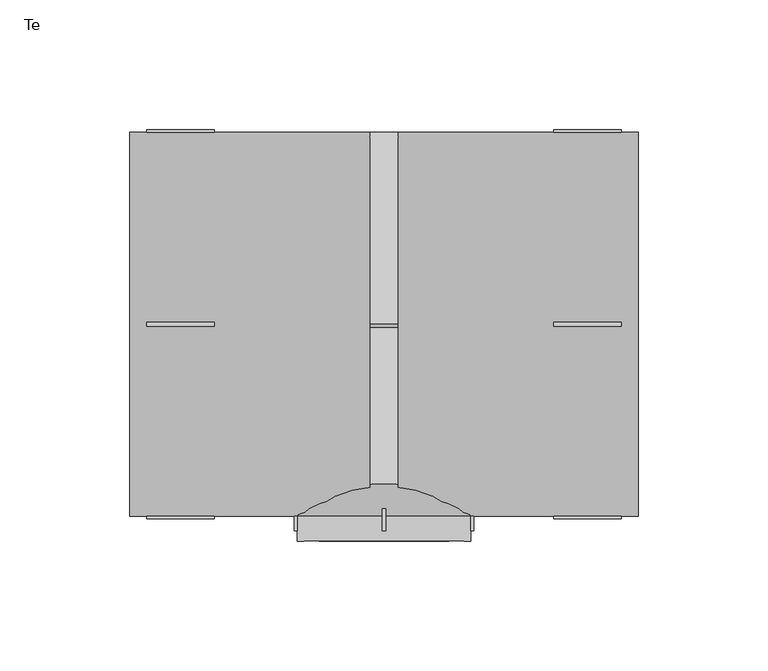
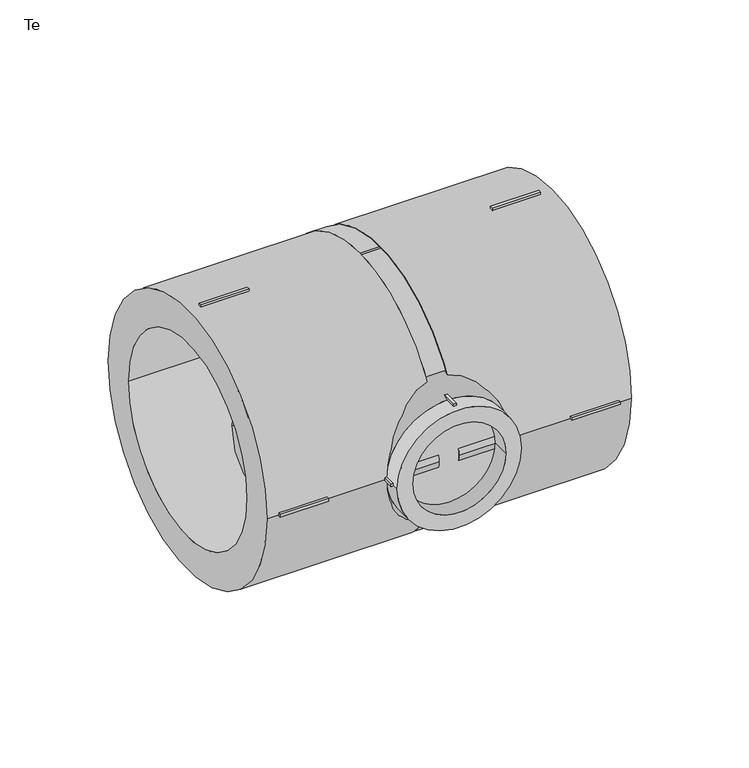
"""IFC4 building model written with IfcOpenShell, lengths in millimetres: pipe fitting geometry, EGB_VASEN_ PPR_Te WXR300_Te reducida WXR310 : Te."""

from ifc_helpers import new_model, si_unit, point, frame, origin, origin_2d, place, context, project, spatial, polyline, circle_curve, trimmed, segment, composite_curve, outline, extrude, source, transform, mapped, element, save
from ifc_brep_helpers import plane_surface, revolved_surface, advanced_brep


def te_c3781a79(model_context):
    return source(origin(), model_context, "Body", "SolidModel", [
        extrude(outline(polyline([(-0.75, -63.5), (0.75, -63.5), (0.75, -79.5), (-0.75, -79.5), (-0.75, -63.5)])), frame((0.0, 0.0, 32.5), z_axis=(0.0, 0.0, 1.0), x_axis=(1.0, 0.0, 0.0)), (0.0, 0.0, 1.0), 2.0),
        extrude(outline(polyline([(-0.75, -63.5), (0.75, -63.5), (0.75, -79.5), (-0.75, -79.5), (-0.75, -63.5)])), frame((0.0, 0.0, -34.5), z_axis=(0.0, 0.0, 1.0), x_axis=(1.0, 0.0, 0.0)), (0.0, 0.0, 1.0), 2.0),
        extrude(outline(polyline([(32.5, -63.5), (34.5, -63.5), (34.5, -79.5), (32.5, -79.5), (32.5, -63.5)])), frame((0.0, 0.0, -0.75), z_axis=(0.0, 0.0, 1.0), x_axis=(1.0, 0.0, 0.0)), (0.0, 0.0, 1.0), 1.5),
        extrude(outline(polyline([(-34.5, -63.5), (-32.5, -63.5), (-32.5, -79.5), (-34.5, -79.5), (-34.5, -63.5)])), frame((0.0, 0.0, -0.75), z_axis=(0.0, 0.0, 1.0), x_axis=(1.0, 0.0, 0.0)), (0.0, 0.0, 1.0), 1.5),
        extrude(outline(polyline([(65.5, -0.75), (65.5, 0.75), (91.5, 0.75), (91.5, -0.75), (65.5, -0.75)])), frame((0.0, 0.0, 73.0), z_axis=(0.0, 0.0, 1.0), x_axis=(1.0, 0.0, 0.0)), (0.0, 0.0, 1.0), 2.0),
        extrude(outline(polyline([(65.5, -0.75), (65.5, 0.75), (91.5, 0.75), (91.5, -0.75), (65.5, -0.75)])), frame((0.0, 0.0, -75.0), z_axis=(0.0, 0.0, 1.0), x_axis=(1.0, 0.0, 0.0)), (0.0, 0.0, 1.0), 2.0),
        extrude(outline(polyline([(65.5, 73.0), (65.5, 75.0), (91.5, 75.0), (91.5, 73.0), (65.5, 73.0)])), frame((0.0, 0.0, -0.75), z_axis=(0.0, 0.0, 1.0), x_axis=(1.0, 0.0, 0.0)), (0.0, 0.0, 1.0), 1.5),
        extrude(outline(polyline([(65.5, -75.0), (65.5, -73.0), (91.5, -73.0), (91.5, -75.0), (65.5, -75.0)])), frame((0.0, 0.0, -0.75), z_axis=(0.0, 0.0, 1.0), x_axis=(1.0, 0.0, 0.0)), (0.0, 0.0, 1.0), 1.5),
        extrude(outline(polyline([(-65.5, 0.75), (-65.5, -0.75), (-91.5, -0.75), (-91.5, 0.75), (-65.5, 0.75)])), frame((0.0, 0.0, 73.0), z_axis=(0.0, 0.0, 1.0), x_axis=(1.0, 0.0, 0.0)), (0.0, 0.0, 1.0), 2.0),
        extrude(outline(polyline([(-65.5, 0.75), (-65.5, -0.75), (-91.5, -0.75), (-91.5, 0.75), (-65.5, 0.75)])), frame((0.0, 0.0, -75.0), z_axis=(0.0, 0.0, 1.0), x_axis=(1.0, 0.0, 0.0)), (0.0, 0.0, 1.0), 2.0),
        extrude(outline(polyline([(-65.5, 75.0), (-65.5, 73.0), (-91.5, 73.0), (-91.5, 75.0), (-65.5, 75.0)])), frame((0.0, 0.0, -0.75), z_axis=(0.0, 0.0, 1.0), x_axis=(1.0, 0.0, 0.0)), (0.0, 0.0, 1.0), 1.5),
        extrude(outline(polyline([(-65.5, -73.0), (-65.5, -75.0), (-91.5, -75.0), (-91.5, -73.0), (-65.5, -73.0)])), frame((0.0, 0.0, -0.75), z_axis=(0.0, 0.0, 1.0), x_axis=(1.0, 0.0, 0.0)), (0.0, 0.0, 1.0), 1.5),
        extrude(outline(composite_curve([segment(trimmed(circle_curve(origin_2d(), 33.5), [point((0.0, 33.5))], [point((0.0, -33.5))], False, "CARTESIAN"), True, "CONTINUOUS"), segment(trimmed(circle_curve(origin_2d(), 33.5), [point((0.0, -33.5))], [point((0.0, 33.5))], False, "CARTESIAN"), True, "CONTINUOUS")], self_intersect=False), holes=[composite_curve([segment(trimmed(circle_curve(origin_2d(), 25.0), [point((0.0, 25.0))], [point((0.0, -25.0))], True, "CARTESIAN"), True, "CONTINUOUS"), segment(trimmed(circle_curve(origin_2d(), 25.0), [point((0.0, -25.0))], [point((0.0, 25.0))], True, "CARTESIAN"), True, "CONTINUOUS")], self_intersect=False)]), frame((0.0, -83.5, 0.0), z_axis=(0.0, 1.0, 0.0), x_axis=(0.0, 0.0, 1.0)), (0.0, 0.0, 1.0), 9.5),
        extrude(outline(composite_curve([segment(trimmed(circle_curve(origin_2d(), 74.0), [point((-74.0, 0.0))], [point((74.0, 0.0))], False, "CARTESIAN"), True, "CONTINUOUS"), segment(trimmed(circle_curve(origin_2d(), 74.0), [point((74.0, 0.0))], [point((-74.0, 0.0))], False, "CARTESIAN"), True, "CONTINUOUS")], self_intersect=False), holes=[composite_curve([segment(trimmed(circle_curve(origin_2d(), 55.0), [point((-55.0, 0.0))], [point((55.0, 0.0))], True, "CARTESIAN"), True, "CONTINUOUS"), segment(trimmed(circle_curve(origin_2d(), 55.0), [point((55.0, 0.0))], [point((-55.0, 0.0))], True, "CARTESIAN"), True, "CONTINUOUS")], self_intersect=False)]), frame((5.44, 0.0, 0.0), z_axis=(1.0, 0.0, 0.0), x_axis=(0.0, 1.0, 0.0)), (0.0, 0.0, 1.0), 92.56),
        extrude(outline(composite_curve([segment(trimmed(circle_curve(origin_2d(), 74.0), [point((-74.0, 0.0))], [point((74.0, 0.0))], False, "CARTESIAN"), True, "CONTINUOUS"), segment(trimmed(circle_curve(origin_2d(), 74.0), [point((74.0, 0.0))], [point((-74.0, 0.0))], False, "CARTESIAN"), True, "CONTINUOUS")], self_intersect=False), holes=[composite_curve([segment(trimmed(circle_curve(origin_2d(), 55.0), [point((-55.0, 0.0))], [point((55.0, 0.0))], True, "CARTESIAN"), True, "CONTINUOUS"), segment(trimmed(circle_curve(origin_2d(), 55.0), [point((55.0, 0.0))], [point((-55.0, 0.0))], True, "CARTESIAN"), True, "CONTINUOUS")], self_intersect=False)]), frame((-98.0, 0.0, 0.0), z_axis=(1.0, 0.0, 0.0), x_axis=(0.0, 1.0, 0.0)), (0.0, 0.0, 1.0), 92.56),
        advanced_brep(
        [(74.0, 0.0, 0.0), (-74.0, 0.0, 0.0), (33.5, -74.0, 0.0), (-33.5, -74.0, 0.0)],
        [
            (0, 1, circle_curve(frame((0.0, 0.0, 0.0), z_axis=(0.0, 1.0, 0.0), x_axis=(1.0, 0.0, 0.0)), 74.0)),
            (1, 0, circle_curve(frame((0.0, 0.0, 0.0), z_axis=(0.0, 1.0, 0.0), x_axis=(-1.0, 0.0, 0.0)), 74.0)),
            (2, 3, circle_curve(frame((0.0, -74.0, 0.0), z_axis=(0.0, -1.0, 0.0), x_axis=(-1.0, 0.0, 0.0)), 33.5)),
            (3, 2, circle_curve(frame((0.0, -74.0, 0.0), z_axis=(0.0, -1.0, 0.0), x_axis=(1.0, 0.0, 0.0)), 33.5)),
            (3, 1),
            (0, 2),
        ],
        [
            plane_surface(frame((0.0, 0.0, 0.0), z_axis=(0.0, 1.0, 0.0), x_axis=(0.0, 0.0, -1.0))),
            plane_surface(frame((0.0, -74.0, 0.0), z_axis=(0.0, -1.0, 0.0), x_axis=(0.0, 0.0, -1.0))),
            revolved_surface(polyline([(-33.49999998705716, -74.0, 0.0), (-74.0, 0.0, 0.0)]), (0.0, -135.2098765, 0.0), (0.0, 1.0, 0.0)),
            revolved_surface(polyline([(33.49999998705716, -74.0, 0.0), (74.0, 0.0, 0.0)]), (0.0, -135.2098765, 0.0), (0.0, 1.0, 0.0)),
        ],
        [
            (0, [[1, 2]]),
            (1, [[3, 4]]),
            (2, [[-4, 5, -1, 6]]),
            (3, [[-3, -6, -2, -5]]),
        ],
    ),
        extrude(outline(composite_curve([segment(trimmed(circle_curve(origin_2d(), 74.0), [point((-74.0, 0.0))], [point((74.0, 0.0))], False, "CARTESIAN"), True, "CONTINUOUS"), segment(trimmed(circle_curve(origin_2d(), 74.0), [point((74.0, 0.0))], [point((-74.0, 0.0))], False, "CARTESIAN"), True, "CONTINUOUS")], self_intersect=False)), frame((-5.44, 0.0, 0.0), z_axis=(1.0, 0.0, 0.0), x_axis=(0.0, 1.0, 0.0)), (0.0, 0.0, 1.0), 10.88),
    ])


if __name__ == "__main__":
    model = new_model("IFC4")
    model_context = context("Model", 3, world=origin())
    ifc_project = project(units=[si_unit("LENGTHUNIT", "METRE", prefix="MILLI")], contexts=[model_context])
    site = spatial("IfcSite", under=ifc_project)
    building = spatial("IfcBuilding", under=site)
    placement = place(None, origin())
    te_shape = te_c3781a79(model_context)
    element("IfcPipeFitting", 1, ObjectType="EGB_VASEN_ PPR_Te WXR300_Te reducida WXR310 : Te", at=placement, inside=building, context=model_context, shape_type="MappedRepresentation", body=[
        mapped(te_shape, transform((0.0, 0.0, 0.0), x_axis=(1.0, 0.0, 0.0), y_axis=(0.0, 1.0, 0.0), z_axis=(0.0, 0.0, 1.0))),
    ])
    save(model, "model.ifc")
